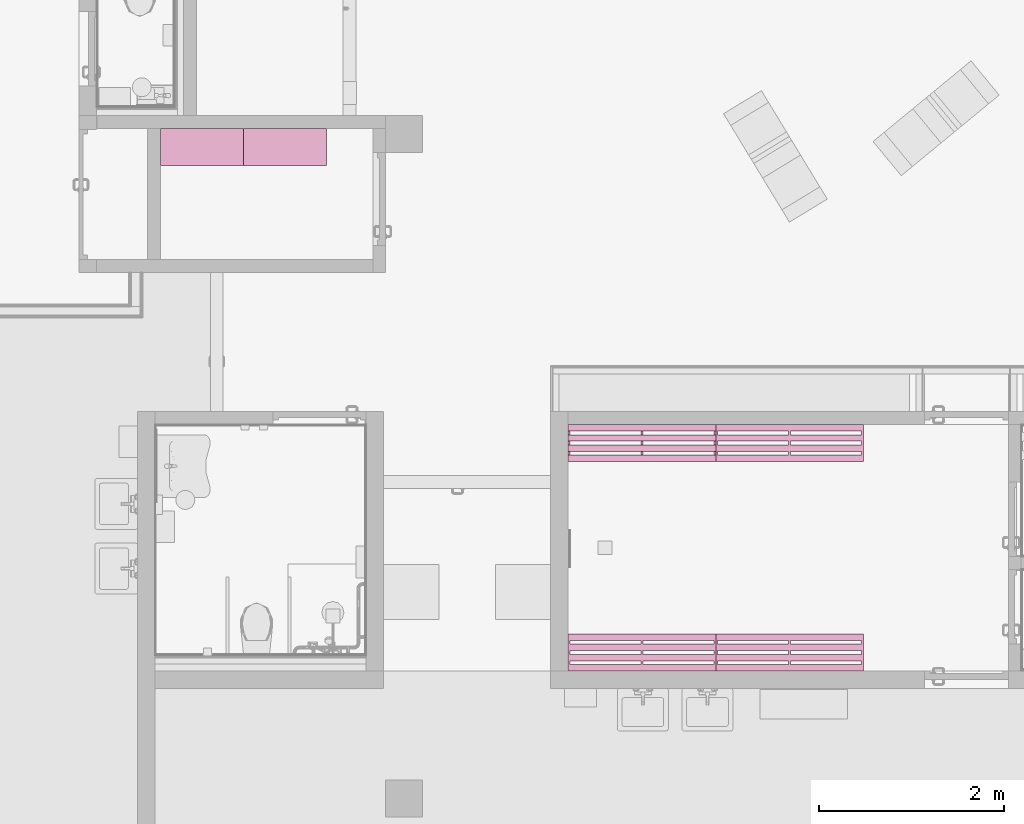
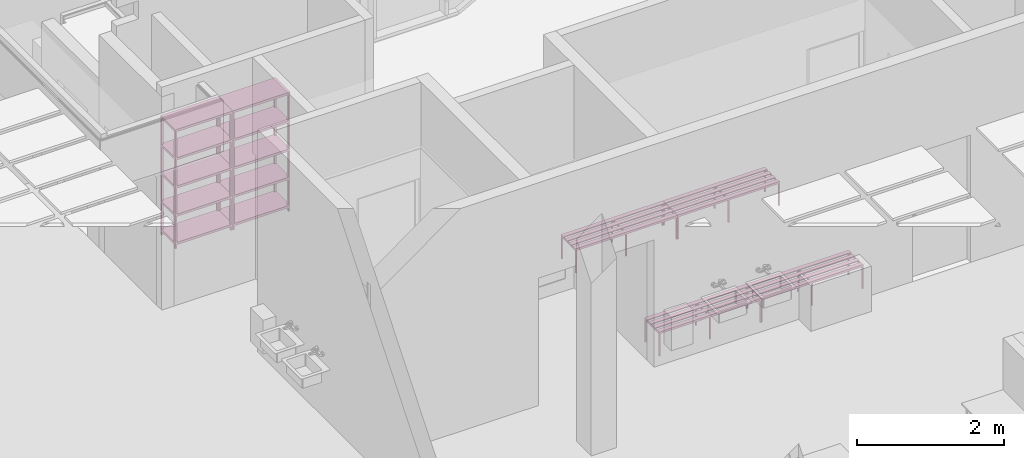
# One storey, part 271 of 301: 6 furnishings.
"""IFC2X3 building model written with IfcOpenShell, lengths in millimetres."""

from ifc_helpers import new_model, entity, si_unit, converted_unit, derived_unit, money_unit, direction, frame, origin_with_axes, place, context, subcontext, project, spatial, faceted_brep, source, transform, mapped, type_object, element, save


model = new_model("IFC2X3")

# Units and contexts
model_context = context("Model", 3, precision=0.01, world=origin_with_axes(), true_north=direction((0.0, 1.0)))
body_context = subcontext(model_context, "Body", "Model", "MODEL_VIEW")
ifc_project = project(units=[si_unit("LENGTHUNIT", "METRE", prefix="MILLI"), si_unit("AREAUNIT", "SQUARE_METRE"), si_unit("VOLUMEUNIT", "CUBIC_METRE"), converted_unit("PLANEANGLEUNIT", "DEGREE", entity("IfcPlaneAngleMeasure", 0.0174532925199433), si_unit("PLANEANGLEUNIT", "RADIAN"), dimensions=[0, 0, 0, 0, 0, 0, 0]), money_unit("EUR"), converted_unit("TIMEUNIT", "Year", entity("IfcTimeMeasure", 31557600.0), si_unit("TIMEUNIT", "SECOND"), dimensions=[0, 0, 1, 0, 0, 0, 0]), si_unit("MASSUNIT", "GRAM", prefix="KILO"), si_unit("THERMODYNAMICTEMPERATUREUNIT", "DEGREE_CELSIUS"), si_unit("LUMINOUSINTENSITYUNIT", "LUMEN"), si_unit("ENERGYUNIT", "JOULE", prefix="MEGA"), derived_unit("THERMALCONDUCTANCEUNIT", [(si_unit("POWERUNIT", "WATT"), 1), (si_unit("LENGTHUNIT", "METRE"), -1), (si_unit("THERMODYNAMICTEMPERATUREUNIT", "KELVIN"), -1)]), derived_unit("SPECIFICHEATCAPACITYUNIT", [(si_unit("ENERGYUNIT", "JOULE"), 1), (si_unit("MASSUNIT", "GRAM", prefix="KILO"), -1), (si_unit("THERMODYNAMICTEMPERATUREUNIT", "KELVIN"), -1)]), derived_unit("MASSDENSITYUNIT", [(si_unit("MASSUNIT", "GRAM", prefix="KILO"), 1), (si_unit("VOLUMEUNIT", "CUBIC_METRE"), -1)])], contexts=[model_context])

# Site, building, storey
site_placement = place(None, frame((0.0, 0.0, 8650.0), z_axis=(0.0, 0.0, 1.0), x_axis=(1.0, 0.0, 0.0)))
site = spatial("IfcSite", under=ifc_project, at=site_placement, Name="43301:001:0844", CompositionType="ELEMENT")
building_placement = place(site_placement, origin_with_axes())
building = spatial("IfcBuilding", under=site, at=building_placement, Name="Kuressaare Ametikooli tuulikute mehaanikute õppekorpus", CompositionType="ELEMENT")
storey_placement = place(building_placement, origin_with_axes())
storey = spatial("IfcBuildingStorey", under=building, at=storey_placement, Name="1.korrus", CompositionType="ELEMENT", Elevation=0.0)

# Furnishings
furniture_type_1 = type_object("IfcFurnitureType", Name="Bookshelf 02 27", AssemblyPlace="NOTDEFINED")
shared_shape_1 = source(origin_with_axes(), body_context, "Body", "Brep", [
    faceted_brep([(-30.0, 0.0, 0.0), (-30.0, 30.0, 0.0), (0.0, 30.0, 0.0), (0.0, 0.0, 0.0), (-30.0, 0.0, 1952.0), (-30.0, 30.0, 1952.0), (0.0, 30.0, 1952.0), (0.0, 0.0, 1952.0)], [[[0, 1, 2, 3]], [[0, 4, 5, 1]], [[1, 5, 6, 2]], [[2, 6, 7, 3]], [[3, 7, 4, 0]], [[7, 6, 5, 4]]]),
    faceted_brep([(-900.0000000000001, 0.0, 0.0), (-900.0000000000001, 30.0, 0.0), (-870.0000000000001, 30.0, 0.0), (-870.0000000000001, 0.0, 0.0), (-900.0000000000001, 0.0, 1952.0), (-900.0000000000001, 30.0, 1952.0), (-870.0000000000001, 30.0, 1952.0), (-870.0000000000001, 0.0, 1952.0)], [[[0, 1, 2, 3]], [[0, 4, 5, 1]], [[1, 5, 6, 2]], [[2, 6, 7, 3]], [[3, 7, 4, 0]], [[7, 6, 5, 4]]]),
    faceted_brep([(-30.0, 370.0, 0.0), (-30.0, 400.0, 0.0), (0.0, 400.0, 0.0), (0.0, 370.0, 0.0), (-30.0, 370.0, 1952.0), (-30.0, 400.0, 1952.0), (0.0, 400.0, 1952.0), (0.0, 370.0, 1952.0)], [[[0, 1, 2, 3]], [[0, 4, 5, 1]], [[1, 5, 6, 2]], [[2, 6, 7, 3]], [[3, 7, 4, 0]], [[7, 6, 5, 4]]]),
    faceted_brep([(-900.0000000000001, 370.0, 0.0), (-900.0000000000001, 400.0, 0.0), (-870.0000000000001, 400.0, 0.0), (-870.0000000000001, 370.0, 0.0), (-900.0000000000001, 370.0, 1952.0), (-900.0000000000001, 400.0, 1952.0), (-870.0000000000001, 400.0, 1952.0), (-870.0000000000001, 370.0, 1952.0)], [[[0, 1, 2, 3]], [[0, 4, 5, 1]], [[1, 5, 6, 2]], [[2, 6, 7, 3]], [[3, 7, 4, 0]], [[7, 6, 5, 4]]]),
    faceted_brep([(-30.0, 30.0, 60.0), (-30.0, 370.0, 60.0), (0.0, 370.0, 60.0), (0.0, 30.0, 60.0), (-30.0, 30.0, 80.0), (-30.0, 370.0, 80.0), (0.0, 370.0, 80.0), (0.0, 30.0, 80.0)], [[[0, 1, 2, 3]], [[0, 4, 5, 1]], [[1, 5, 6, 2]], [[2, 6, 7, 3]], [[3, 7, 4, 0]], [[7, 6, 5, 4]]]),
    faceted_brep([(-900.0000000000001, 30.0, 60.0), (-900.0000000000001, 370.0, 60.0), (-870.0000000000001, 370.0, 60.0), (-870.0000000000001, 30.0, 60.0), (-900.0000000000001, 30.0, 80.0), (-900.0000000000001, 370.0, 80.0), (-870.0000000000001, 370.0, 80.0), (-870.0000000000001, 30.0, 80.0)], [[[0, 1, 2, 3]], [[0, 4, 5, 1]], [[1, 5, 6, 2]], [[2, 6, 7, 3]], [[3, 7, 4, 0]], [[7, 6, 5, 4]]]),
    faceted_brep([(-870.0000000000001, 0.0, 60.0), (-870.0000000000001, 30.0, 60.0), (-30.0, 30.0, 60.0), (-30.0, 0.0, 60.0), (-870.0000000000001, 0.0, 80.0), (-870.0000000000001, 30.0, 80.0), (-30.0, 30.0, 80.0), (-30.0, 0.0, 80.0)], [[[0, 1, 2, 3]], [[0, 4, 5, 1]], [[1, 5, 6, 2]], [[2, 6, 7, 3]], [[3, 7, 4, 0]], [[7, 6, 5, 4]]]),
    faceted_brep([(-870.0000000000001, 370.0, 60.0), (-870.0000000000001, 400.0, 60.0), (-30.0, 400.0, 60.0), (-30.0, 370.0, 60.0), (-870.0000000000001, 370.0, 80.0), (-870.0000000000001, 400.0, 80.0), (-30.0, 400.0, 80.0), (-30.0, 370.0, 80.0)], [[[0, 1, 2, 3]], [[0, 4, 5, 1]], [[1, 5, 6, 2]], [[2, 6, 7, 3]], [[3, 7, 4, 0]], [[7, 6, 5, 4]]]),
    faceted_brep([(-30.0, 30.0, 528.0), (-30.0, 370.0, 528.0), (0.0, 370.0, 528.0), (0.0, 30.0, 528.0), (-30.0, 30.0, 548.0), (-30.0, 370.0, 548.0), (0.0, 370.0, 548.0), (0.0, 30.0, 548.0)], [[[0, 1, 2, 3]], [[0, 4, 5, 1]], [[1, 5, 6, 2]], [[2, 6, 7, 3]], [[3, 7, 4, 0]], [[7, 6, 5, 4]]]),
    faceted_brep([(-900.0000000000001, 30.0, 528.0), (-900.0000000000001, 370.0, 528.0), (-870.0000000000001, 370.0, 528.0), (-870.0000000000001, 30.0, 528.0), (-900.0000000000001, 30.0, 548.0), (-900.0000000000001, 370.0, 548.0), (-870.0000000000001, 370.0, 548.0), (-870.0000000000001, 30.0, 548.0)], [[[0, 1, 2, 3]], [[0, 4, 5, 1]], [[1, 5, 6, 2]], [[2, 6, 7, 3]], [[3, 7, 4, 0]], [[7, 6, 5, 4]]]),
    faceted_brep([(-870.0000000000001, 0.0, 528.0), (-870.0000000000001, 30.0, 528.0), (-30.0, 30.0, 528.0), (-30.0, 0.0, 528.0), (-870.0000000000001, 0.0, 548.0), (-870.0000000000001, 30.0, 548.0), (-30.0, 30.0, 548.0), (-30.0, 0.0, 548.0)], [[[0, 1, 2, 3]], [[0, 4, 5, 1]], [[1, 5, 6, 2]], [[2, 6, 7, 3]], [[3, 7, 4, 0]], [[7, 6, 5, 4]]]),
    faceted_brep([(-870.0000000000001, 370.0, 528.0), (-870.0000000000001, 400.0, 528.0), (-30.0, 400.0, 528.0), (-30.0, 370.0, 528.0), (-870.0000000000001, 370.0, 548.0), (-870.0000000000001, 400.0, 548.0), (-30.0, 400.0, 548.0), (-30.0, 370.0, 548.0)], [[[0, 1, 2, 3]], [[0, 4, 5, 1]], [[1, 5, 6, 2]], [[2, 6, 7, 3]], [[3, 7, 4, 0]], [[7, 6, 5, 4]]]),
    faceted_brep([(-30.0, 30.0, 996.0), (-30.0, 370.0, 996.0), (0.0, 370.0, 996.0), (0.0, 30.0, 996.0), (-30.0, 30.0, 1016.0), (-30.0, 370.0, 1016.0), (0.0, 370.0, 1016.0), (0.0, 30.0, 1016.0)], [[[0, 1, 2, 3]], [[0, 4, 5, 1]], [[1, 5, 6, 2]], [[2, 6, 7, 3]], [[3, 7, 4, 0]], [[7, 6, 5, 4]]]),
    faceted_brep([(-900.0000000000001, 30.0, 996.0), (-900.0000000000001, 370.0, 996.0), (-870.0000000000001, 370.0, 996.0), (-870.0000000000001, 30.0, 996.0), (-900.0000000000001, 30.0, 1016.0), (-900.0000000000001, 370.0, 1016.0), (-870.0000000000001, 370.0, 1016.0), (-870.0000000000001, 30.0, 1016.0)], [[[0, 1, 2, 3]], [[0, 4, 5, 1]], [[1, 5, 6, 2]], [[2, 6, 7, 3]], [[3, 7, 4, 0]], [[7, 6, 5, 4]]]),
    faceted_brep([(-870.0000000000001, 0.0, 996.0), (-870.0000000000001, 30.0, 996.0), (-30.0, 30.0, 996.0), (-30.0, 0.0, 996.0), (-870.0000000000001, 0.0, 1016.0), (-870.0000000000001, 30.0, 1016.0), (-30.0, 30.0, 1016.0), (-30.0, 0.0, 1016.0)], [[[0, 1, 2, 3]], [[0, 4, 5, 1]], [[1, 5, 6, 2]], [[2, 6, 7, 3]], [[3, 7, 4, 0]], [[7, 6, 5, 4]]]),
    faceted_brep([(-870.0000000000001, 370.0, 996.0), (-870.0000000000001, 400.0, 996.0), (-30.0, 400.0, 996.0), (-30.0, 370.0, 996.0), (-870.0000000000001, 370.0, 1016.0), (-870.0000000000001, 400.0, 1016.0), (-30.0, 400.0, 1016.0), (-30.0, 370.0, 1016.0)], [[[0, 1, 2, 3]], [[0, 4, 5, 1]], [[1, 5, 6, 2]], [[2, 6, 7, 3]], [[3, 7, 4, 0]], [[7, 6, 5, 4]]]),
    faceted_brep([(-30.0, 30.0, 1464.0), (-30.0, 370.0, 1464.0), (0.0, 370.0, 1464.0), (0.0, 30.0, 1464.0), (-30.0, 30.0, 1484.0), (-30.0, 370.0, 1484.0), (0.0, 370.0, 1484.0), (0.0, 30.0, 1484.0)], [[[0, 1, 2, 3]], [[0, 4, 5, 1]], [[1, 5, 6, 2]], [[2, 6, 7, 3]], [[3, 7, 4, 0]], [[7, 6, 5, 4]]]),
    faceted_brep([(-900.0000000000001, 30.0, 1464.0), (-900.0000000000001, 370.0, 1464.0), (-870.0000000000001, 370.0, 1464.0), (-870.0000000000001, 30.0, 1464.0), (-900.0000000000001, 30.0, 1484.0), (-900.0000000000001, 370.0, 1484.0), (-870.0000000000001, 370.0, 1484.0), (-870.0000000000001, 30.0, 1484.0)], [[[0, 1, 2, 3]], [[0, 4, 5, 1]], [[1, 5, 6, 2]], [[2, 6, 7, 3]], [[3, 7, 4, 0]], [[7, 6, 5, 4]]]),
    faceted_brep([(-870.0000000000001, 0.0, 1464.0), (-870.0000000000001, 30.0, 1464.0), (-30.0, 30.0, 1464.0), (-30.0, 0.0, 1464.0), (-870.0000000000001, 0.0, 1484.0), (-870.0000000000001, 30.0, 1484.0), (-30.0, 30.0, 1484.0), (-30.0, 0.0, 1484.0)], [[[0, 1, 2, 3]], [[0, 4, 5, 1]], [[1, 5, 6, 2]], [[2, 6, 7, 3]], [[3, 7, 4, 0]], [[7, 6, 5, 4]]]),
    faceted_brep([(-870.0000000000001, 370.0, 1464.0), (-870.0000000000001, 400.0, 1464.0), (-30.0, 400.0, 1464.0), (-30.0, 370.0, 1464.0), (-870.0000000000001, 370.0, 1484.0), (-870.0000000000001, 400.0, 1484.0), (-30.0, 400.0, 1484.0), (-30.0, 370.0, 1484.0)], [[[0, 1, 2, 3]], [[0, 4, 5, 1]], [[1, 5, 6, 2]], [[2, 6, 7, 3]], [[3, 7, 4, 0]], [[7, 6, 5, 4]]]),
    faceted_brep([(-30.0, 30.0, 1932.0), (-30.0, 370.0, 1932.0), (0.0, 370.0, 1932.0), (0.0, 30.0, 1932.0), (-30.0, 30.0, 1952.0), (-30.0, 370.0, 1952.0), (0.0, 370.0, 1952.0), (0.0, 30.0, 1952.0)], [[[0, 1, 2, 3]], [[0, 4, 5, 1]], [[1, 5, 6, 2]], [[2, 6, 7, 3]], [[3, 7, 4, 0]], [[7, 6, 5, 4]]]),
    faceted_brep([(-900.0000000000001, 30.0, 1932.0), (-900.0000000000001, 370.0, 1932.0), (-870.0000000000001, 370.0, 1932.0), (-870.0000000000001, 30.0, 1932.0), (-900.0000000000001, 30.0, 1952.0), (-900.0000000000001, 370.0, 1952.0), (-870.0000000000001, 370.0, 1952.0), (-870.0000000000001, 30.0, 1952.0)], [[[0, 1, 2, 3]], [[0, 4, 5, 1]], [[1, 5, 6, 2]], [[2, 6, 7, 3]], [[3, 7, 4, 0]], [[7, 6, 5, 4]]]),
    faceted_brep([(-870.0000000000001, 0.0, 1932.0), (-870.0000000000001, 30.0, 1932.0), (-30.0, 30.0, 1932.0), (-30.0, 0.0, 1932.0), (-870.0000000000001, 0.0, 1952.0), (-870.0000000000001, 30.0, 1952.0), (-30.0, 30.0, 1952.0), (-30.0, 0.0, 1952.0)], [[[0, 1, 2, 3]], [[0, 4, 5, 1]], [[1, 5, 6, 2]], [[2, 6, 7, 3]], [[3, 7, 4, 0]], [[7, 6, 5, 4]]]),
    faceted_brep([(-870.0000000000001, 370.0, 1932.0), (-870.0000000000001, 400.0, 1932.0), (-30.0, 400.0, 1932.0), (-30.0, 370.0, 1932.0), (-870.0000000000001, 370.0, 1952.0), (-870.0000000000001, 400.0, 1952.0), (-30.0, 400.0, 1952.0), (-30.0, 370.0, 1952.0)], [[[0, 1, 2, 3]], [[0, 4, 5, 1]], [[1, 5, 6, 2]], [[2, 6, 7, 3]], [[3, 7, 4, 0]], [[7, 6, 5, 4]]]),
    faceted_brep([(-900.0, 0.0, 1952.0), (-900.0, 400.0, 1952.0), (0.0, 400.0, 1952.0), (0.0, 0.0, 1952.0), (-900.0, 0.0, 1972.0), (-900.0, 400.0, 1972.0), (0.0, 400.0, 1972.0), (0.0, 0.0, 1972.0)], [[[0, 1, 2, 3]], [[0, 4, 5, 1]], [[1, 5, 6, 2]], [[2, 6, 7, 3]], [[3, 7, 4, 0]], [[7, 6, 5, 4]]]),
    faceted_brep([(0.0, 30.0, 80.0), (0.0, 30.0, 100.0), (-30.0, 30.0, 100.0), (-30.0, 30.0, 80.0), (0.0, 370.0, 80.0), (0.0, 370.0, 100.0), (-30.0, 370.0, 100.0), (-30.0, 400.0, 100.0), (-870.0, 400.0, 100.0), (-870.0, 370.0, 100.0), (-900.0, 370.0, 100.0), (-900.0, 30.0, 100.0), (-870.0, 30.0, 100.0), (-870.0, 0.0, 100.0), (-30.0, 0.0, 100.0), (-30.0, 0.0, 80.0), (-870.0, 0.0, 80.0), (-870.0, 30.0, 80.0), (-900.0, 30.0, 80.0), (-900.0, 370.0, 80.0), (-870.0, 370.0, 80.0), (-870.0, 400.0, 80.0), (-30.0, 400.0, 80.0), (-30.0, 370.0, 80.0)], [[[0, 1, 2, 3]], [[4, 5, 1, 0]], [[1, 5, 6, 7, 8, 9, 10, 11, 12, 13, 14, 2]], [[3, 2, 14, 15]], [[0, 3, 15, 16, 17, 18, 19, 20, 21, 22, 23, 4]], [[23, 6, 5, 4]], [[22, 7, 6, 23]], [[21, 8, 7, 22]], [[20, 9, 8, 21]], [[19, 10, 9, 20]], [[18, 11, 10, 19]], [[17, 12, 11, 18]], [[16, 13, 12, 17]], [[15, 14, 13, 16]]]),
    faceted_brep([(0.0, 30.0, 547.9999999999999), (0.0, 30.0, 568.0), (-30.0, 30.0, 568.0), (-30.0, 30.0, 547.9999999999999), (0.0, 370.0, 547.9999999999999), (0.0, 370.0, 568.0), (-30.0, 370.0, 568.0), (-30.0, 400.0, 568.0), (-870.0, 400.0, 568.0), (-870.0, 370.0, 568.0), (-900.0, 370.0, 568.0), (-900.0, 30.0, 568.0), (-870.0, 30.0, 568.0), (-870.0, 0.0, 568.0), (-30.0, 0.0, 568.0), (-30.0, 0.0, 547.9999999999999), (-870.0, 0.0, 547.9999999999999), (-870.0, 30.0, 547.9999999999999), (-900.0, 30.0, 547.9999999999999), (-900.0, 370.0, 547.9999999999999), (-870.0, 370.0, 547.9999999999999), (-870.0, 400.0, 547.9999999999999), (-30.0, 400.0, 547.9999999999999), (-30.0, 370.0, 547.9999999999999)], [[[0, 1, 2, 3]], [[4, 5, 1, 0]], [[1, 5, 6, 7, 8, 9, 10, 11, 12, 13, 14, 2]], [[3, 2, 14, 15]], [[0, 3, 15, 16, 17, 18, 19, 20, 21, 22, 23, 4]], [[23, 6, 5, 4]], [[22, 7, 6, 23]], [[21, 8, 7, 22]], [[20, 9, 8, 21]], [[19, 10, 9, 20]], [[18, 11, 10, 19]], [[17, 12, 11, 18]], [[16, 13, 12, 17]], [[15, 14, 13, 16]]]),
    faceted_brep([(0.0, 30.0, 1016.0), (0.0, 30.0, 1036.0), (-30.0, 30.0, 1036.0), (-30.0, 30.0, 1016.0), (0.0, 370.0, 1016.0), (0.0, 370.0, 1036.0), (-30.0, 370.0, 1036.0), (-30.0, 400.0, 1036.0), (-870.0, 400.0, 1036.0), (-870.0, 370.0, 1036.0), (-900.0, 370.0, 1036.0), (-900.0, 30.0, 1036.0), (-870.0, 30.0, 1036.0), (-870.0, 0.0, 1036.0), (-30.0, 0.0, 1036.0), (-30.0, 0.0, 1016.0), (-870.0, 0.0, 1016.0), (-870.0, 30.0, 1016.0), (-900.0, 30.0, 1016.0), (-900.0, 370.0, 1016.0), (-870.0, 370.0, 1016.0), (-870.0, 400.0, 1016.0), (-30.0, 400.0, 1016.0), (-30.0, 370.0, 1016.0)], [[[0, 1, 2, 3]], [[4, 5, 1, 0]], [[1, 5, 6, 7, 8, 9, 10, 11, 12, 13, 14, 2]], [[3, 2, 14, 15]], [[0, 3, 15, 16, 17, 18, 19, 20, 21, 22, 23, 4]], [[23, 6, 5, 4]], [[22, 7, 6, 23]], [[21, 8, 7, 22]], [[20, 9, 8, 21]], [[19, 10, 9, 20]], [[18, 11, 10, 19]], [[17, 12, 11, 18]], [[16, 13, 12, 17]], [[15, 14, 13, 16]]]),
    faceted_brep([(0.0, 30.0, 1484.0), (0.0, 30.0, 1504.0), (-30.0, 30.0, 1504.0), (-30.0, 30.0, 1484.0), (0.0, 370.0, 1484.0), (0.0, 370.0, 1504.0), (-30.0, 370.0, 1504.0), (-30.0, 400.0, 1504.0), (-870.0, 400.0, 1504.0), (-870.0, 370.0, 1504.0), (-900.0, 370.0, 1504.0), (-900.0, 30.0, 1504.0), (-870.0, 30.0, 1504.0), (-870.0, 0.0, 1504.0), (-30.0, 0.0, 1504.0), (-30.0, 0.0, 1484.0), (-870.0, 0.0, 1484.0), (-870.0, 30.0, 1484.0), (-900.0, 30.0, 1484.0), (-900.0, 370.0, 1484.0), (-870.0, 370.0, 1484.0), (-870.0, 400.0, 1484.0), (-30.0, 400.0, 1484.0), (-30.0, 370.0, 1484.0)], [[[0, 1, 2, 3]], [[4, 5, 1, 0]], [[1, 5, 6, 7, 8, 9, 10, 11, 12, 13, 14, 2]], [[3, 2, 14, 15]], [[0, 3, 15, 16, 17, 18, 19, 20, 21, 22, 23, 4]], [[23, 6, 5, 4]], [[22, 7, 6, 23]], [[21, 8, 7, 22]], [[20, 9, 8, 21]], [[19, 10, 9, 20]], [[18, 11, 10, 19]], [[17, 12, 11, 18]], [[16, 13, 12, 17]], [[15, 14, 13, 16]]]),
])
for number, where, z_axis, x_axis, name in (
    (1, (103028.1615931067, 23434.06964326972, 0.0), (0.0, 0.0, 1.0), (1.0, 0.0, 0.0), "R49"),
    (2, (102128.1615931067, 23434.06964326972, 0.0), (0.0, 0.0, 1.0), (1.0, 0.0, 0.0), "R49"),
):
    element("IfcFurnishingElement", number, at=place(storey_placement, frame(where, z_axis=z_axis, x_axis=x_axis)), inside=storey, type_object=furniture_type_1, Name=name, context=body_context, shape_type="MappedRepresentation", body=[
        mapped(shared_shape_1, transform((0.0, 0.0, 0.0))),
    ])
furniture_type_2 = type_object("IfcFurnitureType", Name="Bench 27", AssemblyPlace="NOTDEFINED")
shared_shape_2 = source(origin_with_axes(), body_context, "Body", "Brep", [
    faceted_brep([(20.0, 0.0, 0.0), (0.0, 0.0, 0.0), (0.0, 20.0, 0.0), (20.0, 20.0, 0.0), (20.0, 0.0, 385.0), (0.0, 0.0, 385.0), (0.0, 20.0, 385.0), (20.0, 20.0, 385.0)], [[[0, 1, 2, 3]], [[1, 0, 4, 5]], [[2, 1, 5, 6]], [[3, 2, 6, 7]], [[0, 3, 7, 4]], [[5, 4, 7, 6]]]),
    faceted_brep([(20.0, 380.0, 0.0), (0.0, 380.0, 0.0), (0.0, 400.0, 0.0), (20.0, 400.0, 0.0), (20.0, 380.0, 385.0), (0.0, 380.0, 385.0), (0.0, 400.0, 385.0), (20.0, 400.0, 385.0)], [[[0, 1, 2, 3]], [[1, 0, 4, 5]], [[2, 1, 5, 6]], [[3, 2, 6, 7]], [[0, 3, 7, 4]], [[5, 4, 7, 6]]]),
    faceted_brep([(1600.000000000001, 0.0, 0.0), (1580.000000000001, 0.0, 0.0), (1580.000000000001, 20.0, 0.0), (1600.000000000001, 20.0, 0.0), (1600.000000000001, 0.0, 385.0), (1580.000000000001, 0.0, 385.0), (1580.000000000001, 20.0, 385.0), (1600.000000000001, 20.0, 385.0)], [[[0, 1, 2, 3]], [[1, 0, 4, 5]], [[2, 1, 5, 6]], [[3, 2, 6, 7]], [[0, 3, 7, 4]], [[5, 4, 7, 6]]]),
    faceted_brep([(1600.000000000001, 380.0, 0.0), (1580.000000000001, 380.0, 0.0), (1580.000000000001, 400.0, 0.0), (1600.000000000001, 400.0, 0.0), (1600.000000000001, 380.0, 385.0), (1580.000000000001, 380.0, 385.0), (1580.000000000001, 400.0, 385.0), (1600.000000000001, 400.0, 385.0)], [[[0, 1, 2, 3]], [[1, 0, 4, 5]], [[2, 1, 5, 6]], [[3, 2, 6, 7]], [[0, 3, 7, 4]], [[5, 4, 7, 6]]]),
    faceted_brep([(810.0000000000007, 0.0, 0.0), (790.0000000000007, 0.0, 0.0), (790.0000000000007, 20.0, 0.0), (810.0000000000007, 20.0, 0.0), (810.0000000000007, 0.0, 385.0), (790.0000000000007, 0.0, 385.0), (790.0000000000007, 20.0, 385.0), (810.0000000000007, 20.0, 385.0)], [[[0, 1, 2, 3]], [[1, 0, 4, 5]], [[2, 1, 5, 6]], [[3, 2, 6, 7]], [[0, 3, 7, 4]], [[5, 4, 7, 6]]]),
    faceted_brep([(810.0000000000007, 380.0, 0.0), (790.0000000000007, 380.0, 0.0), (790.0000000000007, 400.0, 0.0), (810.0000000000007, 400.0, 0.0), (810.0000000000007, 380.0, 385.0), (790.0000000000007, 380.0, 385.0), (790.0000000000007, 400.0, 385.0), (810.0000000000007, 400.0, 385.0)], [[[0, 1, 2, 3]], [[1, 0, 4, 5]], [[2, 1, 5, 6]], [[3, 2, 6, 7]], [[0, 3, 7, 4]], [[5, 4, 7, 6]]]),
    faceted_brep([(790.0000000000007, 0.0, 365.0000000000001), (20.0, 0.0, 365.0000000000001), (20.0, 20.0, 365.0000000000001), (790.0000000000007, 20.0, 365.0000000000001), (790.0000000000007, 0.0, 385.0000000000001), (20.0, 0.0, 385.0000000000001), (20.0, 20.0, 385.0000000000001), (790.0000000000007, 20.0, 385.0000000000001)], [[[0, 1, 2, 3]], [[1, 0, 4, 5]], [[2, 1, 5, 6]], [[3, 2, 6, 7]], [[0, 3, 7, 4]], [[5, 4, 7, 6]]]),
    faceted_brep([(1580.000000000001, 0.0, 365.0000000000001), (810.0000000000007, 0.0, 365.0000000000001), (810.0000000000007, 20.0, 365.0000000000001), (1580.000000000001, 20.0, 365.0000000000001), (1580.000000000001, 0.0, 385.0000000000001), (810.0000000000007, 0.0, 385.0000000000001), (810.0000000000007, 20.0, 385.0000000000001), (1580.000000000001, 20.0, 385.0000000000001)], [[[0, 1, 2, 3]], [[1, 0, 4, 5]], [[2, 1, 5, 6]], [[3, 2, 6, 7]], [[0, 3, 7, 4]], [[5, 4, 7, 6]]]),
    faceted_brep([(790.0000000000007, 380.0, 365.0000000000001), (20.0, 380.0, 365.0000000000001), (20.0, 400.0, 365.0000000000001), (790.0000000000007, 400.0, 365.0000000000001), (790.0000000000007, 380.0, 385.0000000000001), (20.0, 380.0, 385.0000000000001), (20.0, 400.0, 385.0000000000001), (790.0000000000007, 400.0, 385.0000000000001)], [[[0, 1, 2, 3]], [[1, 0, 4, 5]], [[2, 1, 5, 6]], [[3, 2, 6, 7]], [[0, 3, 7, 4]], [[5, 4, 7, 6]]]),
    faceted_brep([(1580.000000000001, 380.0, 365.0000000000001), (810.0000000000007, 380.0, 365.0000000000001), (810.0000000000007, 400.0, 365.0000000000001), (1580.000000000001, 400.0, 365.0000000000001), (1580.000000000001, 380.0, 385.0000000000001), (810.0000000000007, 380.0, 385.0000000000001), (810.0000000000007, 400.0, 385.0000000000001), (1580.000000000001, 400.0, 385.0000000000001)], [[[0, 1, 2, 3]], [[1, 0, 4, 5]], [[2, 1, 5, 6]], [[3, 2, 6, 7]], [[0, 3, 7, 4]], [[5, 4, 7, 6]]]),
    faceted_brep([(20.0, 20.0, 365.0000000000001), (0.0, 20.0, 365.0000000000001), (0.0, 380.0000000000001, 365.0000000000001), (20.0, 380.0000000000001, 365.0000000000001), (20.0, 20.0, 385.0000000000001), (0.0, 20.0, 385.0000000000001), (0.0, 380.0000000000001, 385.0000000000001), (20.0, 380.0000000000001, 385.0000000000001)], [[[0, 1, 2, 3]], [[1, 0, 4, 5]], [[2, 1, 5, 6]], [[3, 2, 6, 7]], [[0, 3, 7, 4]], [[5, 4, 7, 6]]]),
    faceted_brep([(810.0000000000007, 20.0, 365.0000000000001), (790.0000000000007, 20.0, 365.0000000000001), (790.0000000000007, 380.0000000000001, 365.0000000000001), (810.0000000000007, 380.0000000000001, 365.0000000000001), (810.0000000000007, 20.0, 385.0000000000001), (790.0000000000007, 20.0, 385.0000000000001), (790.0000000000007, 380.0000000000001, 385.0000000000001), (810.0000000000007, 380.0000000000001, 385.0000000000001)], [[[0, 1, 2, 3]], [[1, 0, 4, 5]], [[2, 1, 5, 6]], [[3, 2, 6, 7]], [[0, 3, 7, 4]], [[5, 4, 7, 6]]]),
    faceted_brep([(1600.000000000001, 20.0, 365.0000000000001), (1580.000000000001, 20.0, 365.0000000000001), (1580.000000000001, 380.0000000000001, 365.0000000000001), (1600.000000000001, 380.0000000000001, 365.0000000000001), (1600.000000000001, 20.0, 385.0000000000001), (1580.000000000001, 20.0, 385.0000000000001), (1580.000000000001, 380.0000000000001, 385.0000000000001), (1600.000000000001, 380.0000000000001, 385.0000000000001)], [[[0, 1, 2, 3]], [[1, 0, 4, 5]], [[2, 1, 5, 6]], [[3, 2, 6, 7]], [[0, 3, 7, 4]], [[5, 4, 7, 6]]]),
    faceted_brep([(0.0, 330.0, 385.0), (1600.000000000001, 330.0, 385.0), (1600.000000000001, 330.0, 400.0), (0.0, 330.0, 400.0), (0.0, 400.0, 385.0), (1600.000000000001, 400.0, 385.0), (1600.000000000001, 400.0, 400.0), (0.0, 400.0, 400.0)], [[[0, 1, 2, 3]], [[0, 4, 5, 1]], [[1, 5, 6, 2]], [[3, 2, 6, 7]], [[4, 0, 3, 7]], [[5, 4, 7, 6]]]),
    faceted_brep([(1600.000000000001, 0.0, 385.0), (0.0, 0.0, 385.0), (0.0, 70.0, 385.0), (1600.000000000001, 70.0, 385.0), (1600.000000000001, 0.0, 400.0), (0.0, 0.0, 400.0), (0.0, 70.0, 400.0), (1600.000000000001, 70.0, 400.0)], [[[0, 1, 2, 3]], [[1, 0, 4, 5]], [[2, 1, 5, 6]], [[3, 2, 6, 7]], [[0, 3, 7, 4]], [[5, 4, 7, 6]]]),
    faceted_brep([(1600.000000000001, 110.0, 385.0), (0.0, 110.0, 385.0), (0.0, 180.0, 385.0), (1600.000000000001, 180.0, 385.0), (1600.000000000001, 110.0, 400.0), (0.0, 110.0, 400.0), (0.0, 180.0, 400.0), (1600.000000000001, 180.0, 400.0)], [[[0, 1, 2, 3]], [[1, 0, 4, 5]], [[2, 1, 5, 6]], [[3, 2, 6, 7]], [[0, 3, 7, 4]], [[5, 4, 7, 6]]]),
    faceted_brep([(1600.000000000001, 220.0, 385.0), (0.0, 220.0, 385.0), (0.0, 290.0000000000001, 385.0), (1600.000000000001, 290.0000000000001, 385.0), (1600.000000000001, 220.0, 400.0), (0.0, 220.0, 400.0), (0.0, 290.0000000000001, 400.0), (1600.000000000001, 290.0000000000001, 400.0)], [[[0, 1, 2, 3]], [[1, 0, 4, 5]], [[2, 1, 5, 6]], [[3, 2, 6, 7]], [[0, 3, 7, 4]], [[5, 4, 7, 6]]]),
])
for number, where, z_axis, x_axis, name in (
    (3, (107245.5119652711, 20624.83573268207, 0.0), (0.0, 0.0, 1.0), (-1.0, 0.0, 0.0), "PI1"),
    (4, (108845.511965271, 20624.83594703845, 0.0), (0.0, 0.0, 1.0), (-1.0, 0.0, 0.0), "PI1"),
):
    element("IfcFurnishingElement", number, at=place(storey_placement, frame(where, z_axis=z_axis, x_axis=x_axis)), inside=storey, type_object=furniture_type_2, Name=name, context=body_context, shape_type="MappedRepresentation", body=[
        mapped(shared_shape_2, transform((0.0, 0.0, 0.0))),
    ])
shared_shape_3 = source(origin_with_axes(), body_context, "Body", "Brep", [
    faceted_brep([(-20.0, 0.0, 0.0), (-20.0, 20.0, 0.0), (0.0, 20.0, 0.0), (0.0, 0.0, 0.0), (-20.0, 0.0, 385.0), (-20.0, 20.0, 385.0), (0.0, 20.0, 385.0), (0.0, 0.0, 385.0)], [[[0, 1, 2, 3]], [[0, 4, 5, 1]], [[1, 5, 6, 2]], [[2, 6, 7, 3]], [[3, 7, 4, 0]], [[7, 6, 5, 4]]]),
    faceted_brep([(-20.0, 380.0, 0.0), (-20.0, 400.0, 0.0), (0.0, 400.0, 0.0), (0.0, 380.0, 0.0), (-20.0, 380.0, 385.0), (-20.0, 400.0, 385.0), (0.0, 400.0, 385.0), (0.0, 380.0, 385.0)], [[[0, 1, 2, 3]], [[0, 4, 5, 1]], [[1, 5, 6, 2]], [[2, 6, 7, 3]], [[3, 7, 4, 0]], [[7, 6, 5, 4]]]),
    faceted_brep([(-1600.000000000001, 0.0, 0.0), (-1600.000000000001, 20.0, 0.0), (-1580.000000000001, 20.0, 0.0), (-1580.000000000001, 0.0, 0.0), (-1600.000000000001, 0.0, 385.0), (-1600.000000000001, 20.0, 385.0), (-1580.000000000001, 20.0, 385.0), (-1580.000000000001, 0.0, 385.0)], [[[0, 1, 2, 3]], [[0, 4, 5, 1]], [[1, 5, 6, 2]], [[2, 6, 7, 3]], [[3, 7, 4, 0]], [[7, 6, 5, 4]]]),
    faceted_brep([(-1600.000000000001, 380.0, 0.0), (-1600.000000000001, 400.0, 0.0), (-1580.000000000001, 400.0, 0.0), (-1580.000000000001, 380.0, 0.0), (-1600.000000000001, 380.0, 385.0), (-1600.000000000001, 400.0, 385.0), (-1580.000000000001, 400.0, 385.0), (-1580.000000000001, 380.0, 385.0)], [[[0, 1, 2, 3]], [[0, 4, 5, 1]], [[1, 5, 6, 2]], [[2, 6, 7, 3]], [[3, 7, 4, 0]], [[7, 6, 5, 4]]]),
    faceted_brep([(-810.0000000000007, 0.0, 0.0), (-810.0000000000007, 20.0, 0.0), (-790.0000000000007, 20.0, 0.0), (-790.0000000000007, 0.0, 0.0), (-810.0000000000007, 0.0, 385.0), (-810.0000000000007, 20.0, 385.0), (-790.0000000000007, 20.0, 385.0), (-790.0000000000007, 0.0, 385.0)], [[[0, 1, 2, 3]], [[0, 4, 5, 1]], [[1, 5, 6, 2]], [[2, 6, 7, 3]], [[3, 7, 4, 0]], [[7, 6, 5, 4]]]),
    faceted_brep([(-810.0000000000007, 380.0, 0.0), (-810.0000000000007, 400.0, 0.0), (-790.0000000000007, 400.0, 0.0), (-790.0000000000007, 380.0, 0.0), (-810.0000000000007, 380.0, 385.0), (-810.0000000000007, 400.0, 385.0), (-790.0000000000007, 400.0, 385.0), (-790.0000000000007, 380.0, 385.0)], [[[0, 1, 2, 3]], [[0, 4, 5, 1]], [[1, 5, 6, 2]], [[2, 6, 7, 3]], [[3, 7, 4, 0]], [[7, 6, 5, 4]]]),
    faceted_brep([(-790.0000000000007, 0.0, 365.0000000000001), (-790.0000000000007, 20.0, 365.0000000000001), (-20.0, 20.0, 365.0000000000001), (-20.0, 0.0, 365.0000000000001), (-790.0000000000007, 0.0, 385.0000000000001), (-790.0000000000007, 20.0, 385.0000000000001), (-20.0, 20.0, 385.0000000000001), (-20.0, 0.0, 385.0000000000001)], [[[0, 1, 2, 3]], [[0, 4, 5, 1]], [[1, 5, 6, 2]], [[2, 6, 7, 3]], [[3, 7, 4, 0]], [[7, 6, 5, 4]]]),
    faceted_brep([(-1580.000000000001, 0.0, 365.0000000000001), (-1580.000000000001, 20.0, 365.0000000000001), (-810.0000000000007, 20.0, 365.0000000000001), (-810.0000000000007, 0.0, 365.0000000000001), (-1580.000000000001, 0.0, 385.0000000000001), (-1580.000000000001, 20.0, 385.0000000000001), (-810.0000000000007, 20.0, 385.0000000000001), (-810.0000000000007, 0.0, 385.0000000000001)], [[[0, 1, 2, 3]], [[0, 4, 5, 1]], [[1, 5, 6, 2]], [[2, 6, 7, 3]], [[3, 7, 4, 0]], [[7, 6, 5, 4]]]),
    faceted_brep([(-790.0000000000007, 380.0, 365.0000000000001), (-790.0000000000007, 400.0, 365.0000000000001), (-20.0, 400.0, 365.0000000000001), (-20.0, 380.0, 365.0000000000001), (-790.0000000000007, 380.0, 385.0000000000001), (-790.0000000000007, 400.0, 385.0000000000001), (-20.0, 400.0, 385.0000000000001), (-20.0, 380.0, 385.0000000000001)], [[[0, 1, 2, 3]], [[0, 4, 5, 1]], [[1, 5, 6, 2]], [[2, 6, 7, 3]], [[3, 7, 4, 0]], [[7, 6, 5, 4]]]),
    faceted_brep([(-1580.000000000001, 380.0, 365.0000000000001), (-1580.000000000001, 400.0, 365.0000000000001), (-810.0000000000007, 400.0, 365.0000000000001), (-810.0000000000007, 380.0, 365.0000000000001), (-1580.000000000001, 380.0, 385.0000000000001), (-1580.000000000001, 400.0, 385.0000000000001), (-810.0000000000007, 400.0, 385.0000000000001), (-810.0000000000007, 380.0, 385.0000000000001)], [[[0, 1, 2, 3]], [[0, 4, 5, 1]], [[1, 5, 6, 2]], [[2, 6, 7, 3]], [[3, 7, 4, 0]], [[7, 6, 5, 4]]]),
    faceted_brep([(-20.0, 20.0, 365.0000000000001), (-20.0, 380.0000000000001, 365.0000000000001), (0.0, 380.0000000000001, 365.0000000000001), (0.0, 20.0, 365.0000000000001), (-20.0, 20.0, 385.0000000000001), (-20.0, 380.0000000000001, 385.0000000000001), (0.0, 380.0000000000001, 385.0000000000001), (0.0, 20.0, 385.0000000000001)], [[[0, 1, 2, 3]], [[0, 4, 5, 1]], [[1, 5, 6, 2]], [[2, 6, 7, 3]], [[3, 7, 4, 0]], [[7, 6, 5, 4]]]),
    faceted_brep([(-810.0000000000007, 20.0, 365.0000000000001), (-810.0000000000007, 380.0000000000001, 365.0000000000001), (-790.0000000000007, 380.0000000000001, 365.0000000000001), (-790.0000000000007, 20.0, 365.0000000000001), (-810.0000000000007, 20.0, 385.0000000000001), (-810.0000000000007, 380.0000000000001, 385.0000000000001), (-790.0000000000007, 380.0000000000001, 385.0000000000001), (-790.0000000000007, 20.0, 385.0000000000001)], [[[0, 1, 2, 3]], [[0, 4, 5, 1]], [[1, 5, 6, 2]], [[2, 6, 7, 3]], [[3, 7, 4, 0]], [[7, 6, 5, 4]]]),
    faceted_brep([(-1600.000000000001, 20.0, 365.0000000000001), (-1600.000000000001, 380.0000000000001, 365.0000000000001), (-1580.000000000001, 380.0000000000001, 365.0000000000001), (-1580.000000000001, 20.0, 365.0000000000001), (-1600.000000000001, 20.0, 385.0000000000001), (-1600.000000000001, 380.0000000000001, 385.0000000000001), (-1580.000000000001, 380.0000000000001, 385.0000000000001), (-1580.000000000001, 20.0, 385.0000000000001)], [[[0, 1, 2, 3]], [[0, 4, 5, 1]], [[1, 5, 6, 2]], [[2, 6, 7, 3]], [[3, 7, 4, 0]], [[7, 6, 5, 4]]]),
    faceted_brep([(0.0, 330.0, 385.0), (0.0, 330.0, 400.0), (-1600.000000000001, 330.0, 400.0), (-1600.000000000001, 330.0, 385.0), (0.0, 400.0, 385.0), (0.0, 400.0, 400.0), (-1600.000000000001, 400.0, 400.0), (-1600.000000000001, 400.0, 385.0)], [[[0, 1, 2, 3]], [[4, 5, 1, 0]], [[1, 5, 6, 2]], [[3, 2, 6, 7]], [[0, 3, 7, 4]], [[7, 6, 5, 4]]]),
    faceted_brep([(-1600.000000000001, 0.0, 385.0), (-1600.000000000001, 70.0, 385.0), (0.0, 70.0, 385.0), (0.0, 0.0, 385.0), (-1600.000000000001, 0.0, 400.0), (-1600.000000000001, 70.0, 400.0), (0.0, 70.0, 400.0), (0.0, 0.0, 400.0)], [[[0, 1, 2, 3]], [[0, 4, 5, 1]], [[1, 5, 6, 2]], [[2, 6, 7, 3]], [[3, 7, 4, 0]], [[7, 6, 5, 4]]]),
    faceted_brep([(-1600.000000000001, 110.0, 385.0), (-1600.000000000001, 180.0, 385.0), (0.0, 180.0, 385.0), (0.0, 110.0, 385.0), (-1600.000000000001, 110.0, 400.0), (-1600.000000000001, 180.0, 400.0), (0.0, 180.0, 400.0), (0.0, 110.0, 400.0)], [[[0, 1, 2, 3]], [[0, 4, 5, 1]], [[1, 5, 6, 2]], [[2, 6, 7, 3]], [[3, 7, 4, 0]], [[7, 6, 5, 4]]]),
    faceted_brep([(-1600.000000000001, 220.0, 385.0), (-1600.000000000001, 290.0000000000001, 385.0), (0.0, 290.0000000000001, 385.0), (0.0, 220.0, 385.0), (-1600.000000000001, 220.0, 400.0), (-1600.000000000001, 290.0000000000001, 400.0), (0.0, 290.0000000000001, 400.0), (0.0, 220.0, 400.0)], [[[0, 1, 2, 3]], [[0, 4, 5, 1]], [[1, 5, 6, 2]], [[2, 6, 7, 3]], [[3, 7, 4, 0]], [[7, 6, 5, 4]]]),
])
for number, where, z_axis, x_axis, name in (
    (5, (108845.512677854, 17954.80171596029, 0.0), (0.0, 0.0, 1.0), (1.0, 0.0, 0.0), "PI1"),
    (6, (107245.512677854, 17954.80193031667, 0.0), (0.0, 0.0, 1.0), (1.0, 0.0, 0.0), "PI1"),
):
    element("IfcFurnishingElement", number, at=place(storey_placement, frame(where, z_axis=z_axis, x_axis=x_axis)), inside=storey, type_object=furniture_type_2, Name=name, context=body_context, shape_type="MappedRepresentation", body=[
        mapped(shared_shape_3, transform((0.0, 0.0, 0.0))),
    ])

save(model, "model.ifc")
